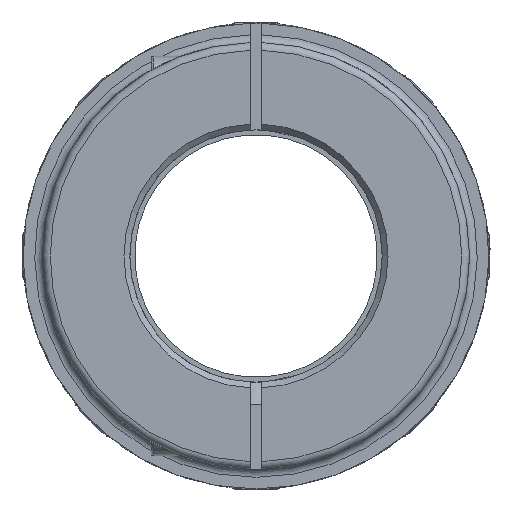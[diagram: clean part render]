
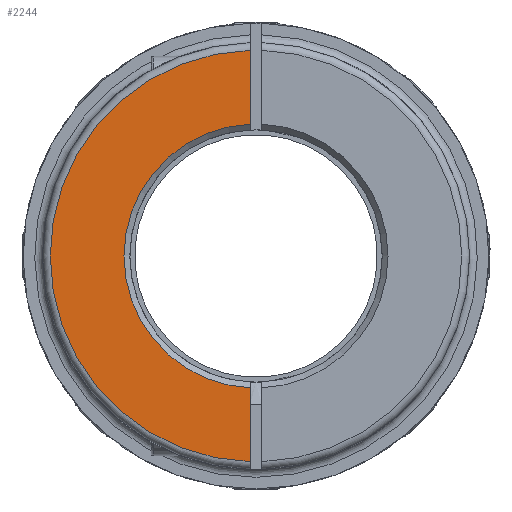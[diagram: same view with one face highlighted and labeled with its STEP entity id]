
A CAD part, left-side view. The second image highlights one B-rep face of the part: STEP entity #2244.
In plain terms, the highlighted planar face has unit normal (-1, 0, 0).
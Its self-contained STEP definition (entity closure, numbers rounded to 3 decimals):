
#167 = DIRECTION ( 'NONE',  ( 0., 0., -1. ) ) ;
#401 = EDGE_CURVE ( 'NONE', #8606, #10901, #8394, .T. ) ;
#1654 = CARTESIAN_POINT ( 'NONE',  ( -80.1, 1.5, 0. ) ) ;
#2244 = ADVANCED_FACE ( 'NONE', ( #12288 ), #3445, .F. ) ;
#2889 = CIRCLE ( 'NONE', #14056, 34. ) ;
#3119 = AXIS2_PLACEMENT_3D ( 'NONE', #4146, #4359, #4430 ) ;
#3445 = PLANE ( 'NONE',  #8629 ) ;
#3596 = CIRCLE ( 'NONE', #3119, 53. ) ;
#3988 = VERTEX_POINT ( 'NONE', #10502 ) ;
#4146 = CARTESIAN_POINT ( 'NONE',  ( -80.1, 0., 0. ) ) ;
#4359 = DIRECTION ( 'NONE',  ( -1., 0., 0. ) ) ;
#4430 = DIRECTION ( 'NONE',  ( 0., 0., -1. ) ) ;
#4826 = VECTOR ( 'NONE', #8859, 1000. ) ;
#5311 = EDGE_CURVE ( 'NONE', #18545, #3988, #20721, .T. ) ;
#5890 = EDGE_LOOP ( 'NONE', ( #13178, #9215, #15221, #22139 ) ) ;
#7109 = CARTESIAN_POINT ( 'NONE',  ( -80.1, 1.5, 0. ) ) ;
#8394 = LINE ( 'NONE', #1654, #12719 ) ;
#8606 = VERTEX_POINT ( 'NONE', #10710 ) ;
#8629 = AXIS2_PLACEMENT_3D ( 'NONE', #17535, #10405, #167 ) ;
#8859 = DIRECTION ( 'NONE',  ( 0., 0., 1. ) ) ;
#9215 = ORIENTED_EDGE ( 'NONE', *, *, #5311, .T. ) ;
#10405 = DIRECTION ( 'NONE',  ( 1., 0., 0. ) ) ;
#10502 = CARTESIAN_POINT ( 'NONE',  ( -80.1, 1.5, -33.967 ) ) ;
#10520 = EDGE_CURVE ( 'NONE', #10901, #18545, #3596, .T. ) ;
#10555 = DIRECTION ( 'NONE',  ( 0., 0., -1. ) ) ;
#10710 = CARTESIAN_POINT ( 'NONE',  ( -80.1, 1.5, 33.967 ) ) ;
#10901 = VERTEX_POINT ( 'NONE', #21148 ) ;
#12288 = FACE_OUTER_BOUND ( 'NONE', #5890, .T. ) ;
#12297 = CARTESIAN_POINT ( 'NONE',  ( -80.1, 0., 0. ) ) ;
#12592 = EDGE_CURVE ( 'NONE', #3988, #8606, #2889, .T. ) ;
#12719 = VECTOR ( 'NONE', #13748, 1000. ) ;
#13178 = ORIENTED_EDGE ( 'NONE', *, *, #10520, .T. ) ;
#13748 = DIRECTION ( 'NONE',  ( 0., 0., 1. ) ) ;
#13809 = CARTESIAN_POINT ( 'NONE',  ( -80.1, 1.5, -52.979 ) ) ;
#14056 = AXIS2_PLACEMENT_3D ( 'NONE', #12297, #18887, #10555 ) ;
#15221 = ORIENTED_EDGE ( 'NONE', *, *, #12592, .T. ) ;
#17535 = CARTESIAN_POINT ( 'NONE',  ( -80.1, 0., 0. ) ) ;
#18545 = VERTEX_POINT ( 'NONE', #13809 ) ;
#18887 = DIRECTION ( 'NONE',  ( 1., 0., 0. ) ) ;
#20721 = LINE ( 'NONE', #7109, #4826 ) ;
#21148 = CARTESIAN_POINT ( 'NONE',  ( -80.1, 1.5, 52.979 ) ) ;
#22139 = ORIENTED_EDGE ( 'NONE', *, *, #401, .T. ) ;
